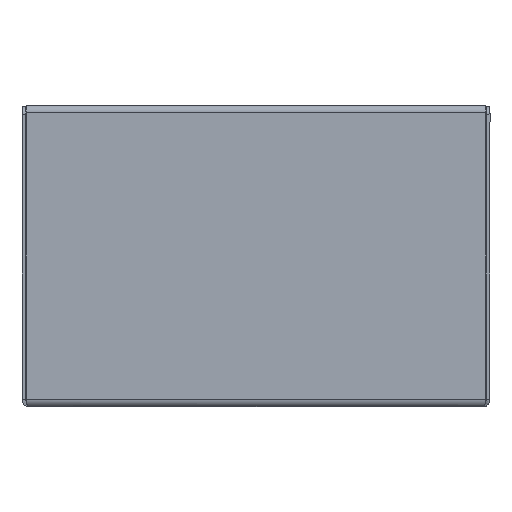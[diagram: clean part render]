
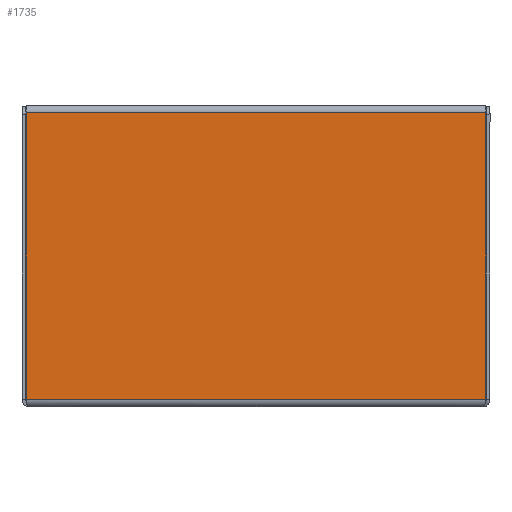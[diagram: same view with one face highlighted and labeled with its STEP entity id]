
A CAD part, left-side view. The second image highlights one B-rep face of the part: STEP entity #1735.
In plain terms, the highlighted planar face has unit normal (-1, 0, 0).
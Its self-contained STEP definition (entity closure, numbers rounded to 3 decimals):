
#13 = CARTESIAN_POINT ( 'NONE',  ( -2., 0., 0. ) ) ;
#119 = CARTESIAN_POINT ( 'NONE',  ( -2., 120.929, 1. ) ) ;
#205 = ORIENTED_EDGE ( 'NONE', *, *, #2251, .F. ) ;
#234 = FACE_OUTER_BOUND ( 'NONE', #860, .T. ) ;
#308 = CARTESIAN_POINT ( 'NONE',  ( -2., -0.929, 1. ) ) ;
#373 = EDGE_CURVE ( 'NONE', #2121, #805, #1089, .T. ) ;
#425 = LINE ( 'NONE', #2733, #1184 ) ;
#775 = ORIENTED_EDGE ( 'NONE', *, *, #944, .F. ) ;
#805 = VERTEX_POINT ( 'NONE', #1065 ) ;
#824 = LINE ( 'NONE', #2430, #1692 ) ;
#829 = DIRECTION ( 'NONE',  ( 0., 0., 1. ) ) ;
#860 = EDGE_LOOP ( 'NONE', ( #1606, #205, #775, #2321 ) ) ;
#907 = EDGE_CURVE ( 'NONE', #805, #952, #824, .T. ) ;
#919 = DIRECTION ( 'NONE',  ( 0., 0., -1. ) ) ;
#944 = EDGE_CURVE ( 'NONE', #2121, #1480, #425, .T. ) ;
#952 = VERTEX_POINT ( 'NONE', #2463 ) ;
#1065 = CARTESIAN_POINT ( 'NONE',  ( -2., -0.929, 77. ) ) ;
#1089 = LINE ( 'NONE', #2182, #1135 ) ;
#1135 = VECTOR ( 'NONE', #2229, 1000. ) ;
#1184 = VECTOR ( 'NONE', #2704, 1000. ) ;
#1324 = DIRECTION ( 'NONE',  ( 0., 1., 0. ) ) ;
#1408 = DIRECTION ( 'NONE',  ( 1., 0., 0. ) ) ;
#1480 = VERTEX_POINT ( 'NONE', #1763 ) ;
#1606 = ORIENTED_EDGE ( 'NONE', *, *, #907, .T. ) ;
#1692 = VECTOR ( 'NONE', #1324, 1000. ) ;
#1735 = ADVANCED_FACE ( 'NONE', ( #234 ), #2051, .F. ) ;
#1763 = CARTESIAN_POINT ( 'NONE',  ( -2., 120.929, 1. ) ) ;
#2051 = PLANE ( 'NONE',  #2220 ) ;
#2121 = VERTEX_POINT ( 'NONE', #308 ) ;
#2182 = CARTESIAN_POINT ( 'NONE',  ( -2., -0.929, 1. ) ) ;
#2198 = LINE ( 'NONE', #119, #2257 ) ;
#2220 = AXIS2_PLACEMENT_3D ( 'NONE', #13, #1408, #919 ) ;
#2229 = DIRECTION ( 'NONE',  ( 0., 0., 1. ) ) ;
#2251 = EDGE_CURVE ( 'NONE', #1480, #952, #2198, .T. ) ;
#2257 = VECTOR ( 'NONE', #829, 1000. ) ;
#2321 = ORIENTED_EDGE ( 'NONE', *, *, #373, .T. ) ;
#2430 = CARTESIAN_POINT ( 'NONE',  ( -2., -0.929, 77. ) ) ;
#2463 = CARTESIAN_POINT ( 'NONE',  ( -2., 120.929, 77. ) ) ;
#2704 = DIRECTION ( 'NONE',  ( 0., 1., 0. ) ) ;
#2733 = CARTESIAN_POINT ( 'NONE',  ( -2., 120., 1. ) ) ;
